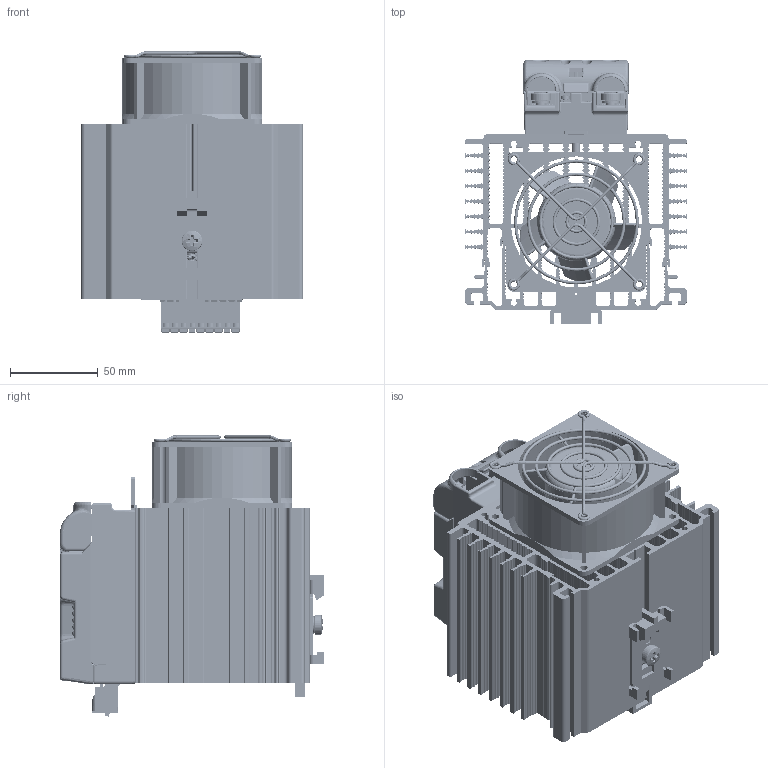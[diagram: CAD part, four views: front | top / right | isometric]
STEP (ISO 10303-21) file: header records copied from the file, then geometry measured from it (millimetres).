
FILE_DESCRIPTION((''),'2;1');
FILE_NAME('GTF_120A','2019-07-18T17:28:42',('paolo.garatti'),('GEFRAN S.p.A via Carducci,24 21040 Gerenzano (VA)'),'CREO PARAMETRIC BY PTC INC, 2018300','CREO PARAMETRIC BY PTC INC, 2018300','');
FILE_SCHEMA(('AUTOMOTIVE_DESIGN { 1 0 10303 214 1 1 1 1 }'));
Products named in the file (54): 4610D0; 3534D2; 4619D0; FUN_90; 56386_LINGUETTA_TERRA_GTS60A; 47108_ROND_OND_D5; 48216_VITE_M5X14_DIN7985; 3674D_46223; 3917D_51760; 3946D_49238; 46101_OLD; 47020_ROND_ZIG_M6; 48000_VITE_TCB_CROSS_M6X10; 1960028_BARRA_DIN35; 51898_INVOLUCRO_BASE; 8S8D30; CTT128_CONTATTO_PWR; 5356D_CTT126; 51889_SCHERMO_ISOLANTE; 8S8B92; 43006_PULSANTE_90_W21X; OPTO_TRIAC-3P; LED; MAGNETE; SO8; OPTO_SFH6186; LH1510; SFH690BT; B6S; CHIP_MC9508AC60FJ; MC78FC50; 22507; 1923827; HEADER_2X6_PASSO2_AMTEK; R100; 72005; 56469_3X2_MMT103-01-T-DH-P; SONDA_TEMP; 1910429_1; BASEBOARD_GTX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
Assembly tree (79 placements, depth 3):
  GTF_120A
    4619D0
      4610D0
      3534D2
    FUN_90
    56386_LINGUETTA_TERRA_GTS60A
    47108_ROND_OND_D5
    48216_VITE_M5X14_DIN7985  x3
    1960028_BARRA_DIN35
      3674D_46223
      3917D_51760
      3946D_49238
      46101_OLD
      47020_ROND_ZIG_M6
      48000_VITE_TCB_CROSS_M6X10
    51898_INVOLUCRO_BASE
    8S8D30  x2
    CTT128_CONTATTO_PWR  x2
    48000_VITE_TCB_CROSS_M6X10  x2
    47020_ROND_ZIG_M6  x2
    5356D_CTT126  x4
    51889_SCHERMO_ISOLANTE
    8S8B92
    BASEBOARD_GTX
      43006_PULSANTE_90_W21X
      OPTO_TRIAC-3P  x2
      LED  x5
      MAGNETE
      SO8  x3
      OPTO_SFH6186
      LH1510
      SFH690BT
      B6S
      CHIP_MC9508AC60FJ
      MC78FC50
      22507
      1923827
      HEADER_2X6_PASSO2_AMTEK
      R100
      72005
      56469_3X2_MMT103-01-T-DH-P
      SONDA_TEMP
      1910429_1
    GTF_SERIALE_RS485
      MAGNETE
      22507
      56095_CONN_RJ11_4V_90  x2
      SWITCH_2VIE_PIANO_UP
      43539_ROTARY_SWITCH_1248_90  x2
      FEMALE_HEADER_2X6_PASSO2
    1455D_48213
    DIS00969_1
      DIS009691_518991
      DIS00969_P1
    DIS00847_51100_OLD  x5
    342467_PIASTRINA
    51900_COPERCHIO_POWER
    51909_SPORTELLINO_PROG
Bounding box: 126.6 x 151.05 x 160.55 mm (x, y, z)
Volume: 616854.7 mm3; surface area: 514342.7 mm2
Topology: 231 solids, 231 shells, 15848 faces, 42733 edges, 27557 vertices
Faces by surface type: plane 9000, cylinder 4496, extrusion 880, bspline 669, torus 455, cone 234, sphere 114
Entity records: 592888 total; most frequent: CARTESIAN_POINT 133177, ORIENTED_EDGE 75200, DIRECTION 67351, EDGE_CURVE 37600, PRESENTATION_STYLE_ASSIGNMENT 26587, VECTOR 25805, STYLED_ITEM 25761, LINE 24925
